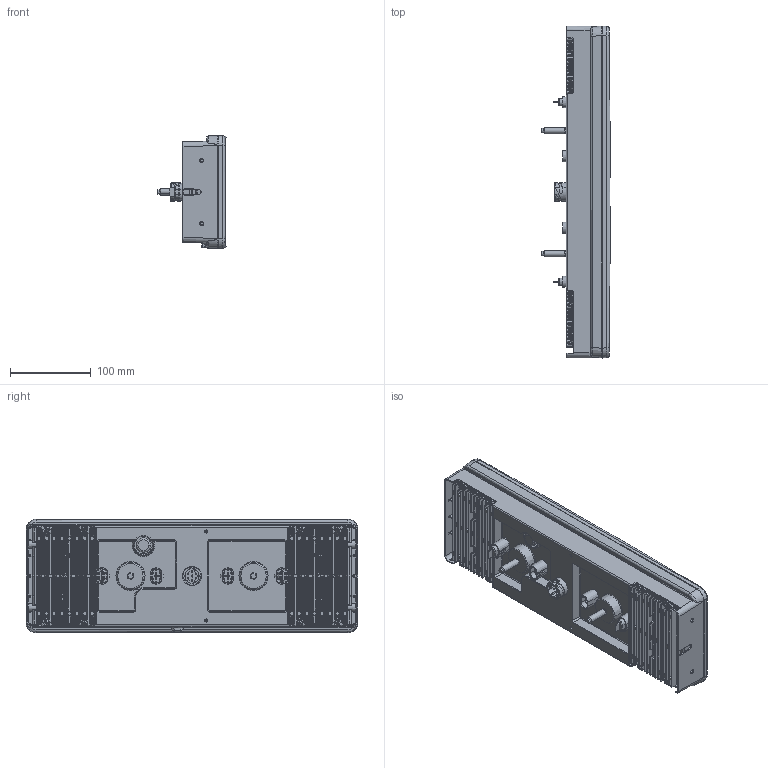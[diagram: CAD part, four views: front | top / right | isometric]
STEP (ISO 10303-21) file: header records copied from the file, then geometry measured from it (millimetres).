
FILE_DESCRIPTION(('CATIA V5 STEP Exchange','CAx-IF Rec.Pracs.--- Model Styling and Organization---1.5--- 2016-08-15','CAx-IF Rec.Pracs.---Supplemental Geometry---1.0---2011-11-01','CAx-IF Rec.Pracs.--- Composite Materials ---1.1---2010-07-15'),'2;1');
FILE_NAME('E:\tmp\ddx\2011206\HELLA_3D_data_Full_LED_rear_lamp_340-970_Truck.stp','2022-01-18T07:25:07+00:00',('none'),('none'),'CATIA Version 5-6 Release 2020 SP3 HF9','CATIA V5 STEP AP214 Edition 3 v2','none');
FILE_SCHEMA(('AUTOMOTIVE_DESIGN { 1 0 10303 214 3 1 1 1 }'));
Products named in the file (1): 10002974395_D10_001
Bounding box: 84.25 x 410 x 140 mm (x, y, z)
Volume: 2559186.8 mm3; surface area: 301007.1 mm2
Topology: 1 solids, 1 shells, 7900 faces, 22178 edges, 13882 vertices
Faces by surface type: bspline 3045, plane 2234, cylinder 1379, sphere 500, cone 415, torus 302, revolution 16, extrusion 9
Entity records: 313341 total; most frequent: CARTESIAN_POINT 144566, ORIENTED_EDGE 43172, EDGE_CURVE 21586, DIRECTION 20642, VERTEX_POINT 13864, B_SPLINE_CURVE_WITH_KNOTS 10073, VECTOR 9049, LINE 9040
